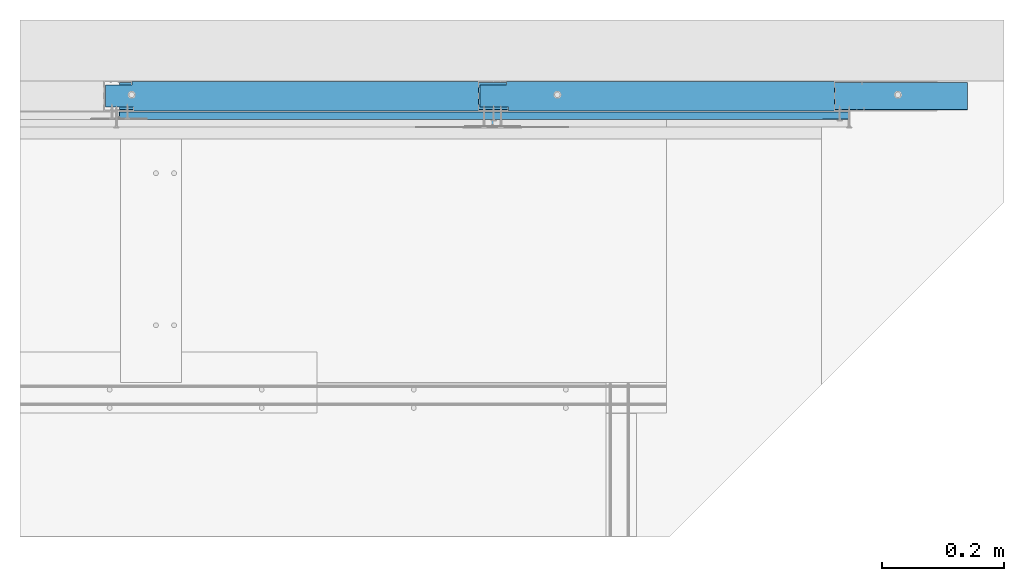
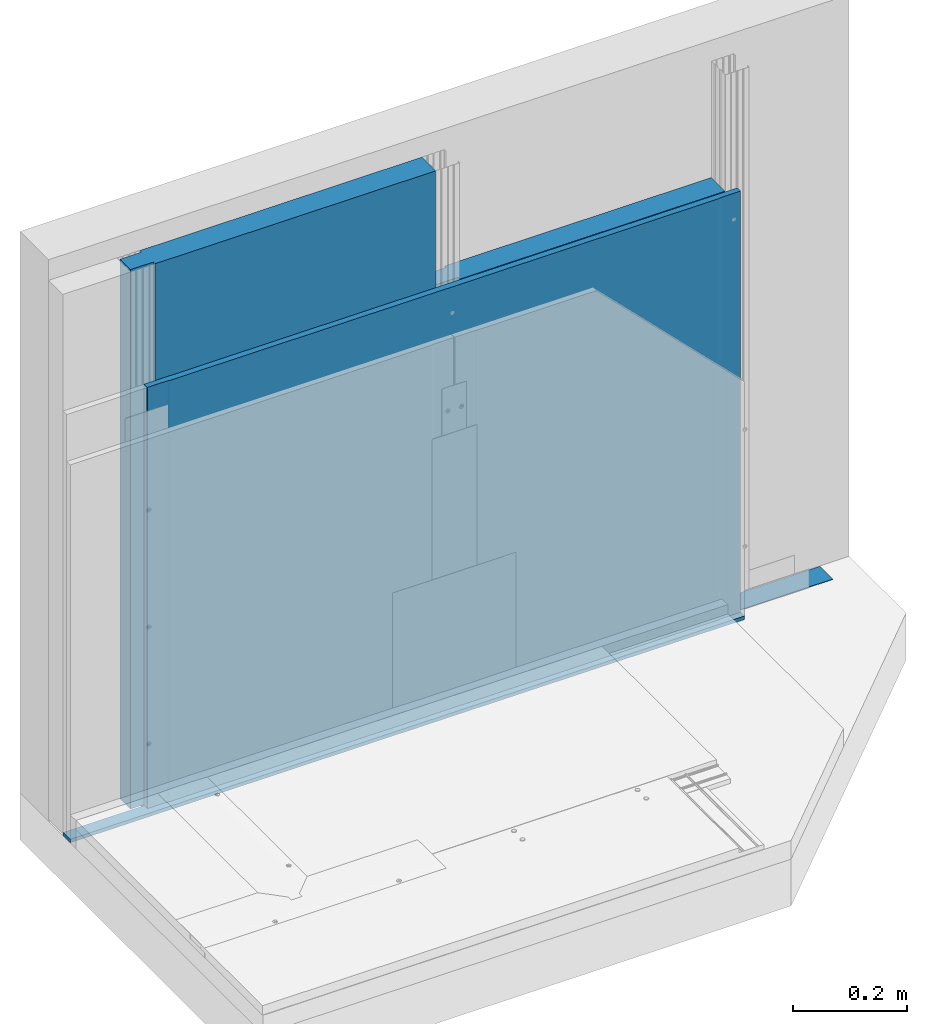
# One storey, part 14 of 38: 5 walls.
"""IFC2X3 building model written with IfcOpenShell, lengths in millimetres."""

from ifc_helpers import new_model, entity, si_unit, converted_unit, direction, frame, origin, origin_with_axes, place, context, project, spatial, faceted_brep, element, save


model = new_model("IFC2X3")

# Units and contexts
model_context = context("Model", 3, precision=1e-05, world=origin(), true_north=direction((0.0, 1.0, 0.0)))
ifc_project = project(units=[si_unit("LENGTHUNIT", "METRE", prefix="MILLI"), si_unit("AREAUNIT", "SQUARE_METRE"), si_unit("VOLUMEUNIT", "CUBIC_METRE"), converted_unit("PLANEANGLEUNIT", "DEGREE", entity("IfcPlaneAngleMeasure", 0.01745), si_unit("PLANEANGLEUNIT", "RADIAN"), dimensions=[0, 0, 0, 0, 0, 0, 0]), si_unit("SOLIDANGLEUNIT", "STERADIAN"), si_unit("MASSUNIT", "GRAM"), si_unit("TIMEUNIT", "SECOND"), si_unit("THERMODYNAMICTEMPERATUREUNIT", "DEGREE_CELSIUS"), si_unit("LUMINOUSINTENSITYUNIT", "LUMEN")], contexts=[model_context])

# Site, building, storey
site_placement = place(None, origin_with_axes())
site = spatial("IfcSite", under=ifc_project, at=site_placement, Name="Default Site", CompositionType="ELEMENT")
building_placement = place(site_placement, origin_with_axes())
building = spatial("IfcBuilding", under=site, at=building_placement, Name="Default Building", CompositionType="ELEMENT")
storey_placement = place(building_placement, origin_with_axes())
storey = spatial("IfcBuildingStorey", under=building, at=storey_placement, Name="Default Building Storey", CompositionType="ELEMENT", Elevation=0.0)

# Walls
wall_1_placement = place(storey_placement, frame((2288.4296487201, 1971.180077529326, 1159.999999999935), z_axis=(0.0, 0.0, 1.0), x_axis=(1.0, 0.0, 0.0)))
element("IfcWall", 1, at=wall_1_placement, inside=storey, Name="Płyta gipsowo-kartonowa RIGIPS PRO (4PRO™)", context=model_context, shape_type="Brep", body=[
    faceted_brep([(1199.866025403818, -10.99999999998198, -249.9999999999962), (1199.965925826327, -10.75881904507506, -249.9999999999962), (1199.965925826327, -10.75881904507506, -1150.001581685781), (1199.866025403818, -10.99999999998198, -1150.001581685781), (1199.707106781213, -11.20710678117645, -249.9999999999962), (1199.707106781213, -11.20710678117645, -1150.001581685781), (1199.50000000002, -11.36602540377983, -249.9999999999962), (1199.50000000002, -11.36602540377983, -1150.001581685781), (1199.258819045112, -11.46592582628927, -249.9999999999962), (1199.258819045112, -11.46592582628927, -1150.001581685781), (1199.0, -11.50000000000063, -249.9999999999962), (1199.0, -11.50000000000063, -1150.001581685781), (1158.999999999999, -11.50000000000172, -249.9999999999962), (1158.999999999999, -11.50000000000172, -1150.001581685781), (1155.000000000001, -12.49999999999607, -249.9999999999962), (1155.000000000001, -12.49999999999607, -1150.001581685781), (44.99999999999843, -12.50000000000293, -249.9999999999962), (44.99999999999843, -12.50000000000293, -1150.001581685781), (40.99999999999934, -11.50000000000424, -249.9999999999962), (40.99999999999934, -11.50000000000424, -1150.001581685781), (0.9999999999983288, -11.5000000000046, -249.9999999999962), (0.9999999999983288, -11.5000000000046, -1150.001581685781), (0.7411809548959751, -11.46592582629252, -249.9999999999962), (0.7411809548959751, -11.46592582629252, -1150.001581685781), (0.4999999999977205, -11.3660254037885, -249.9999999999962), (0.4999999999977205, -11.3660254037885, -1150.001581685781), (0.29289321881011, -11.20710678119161, -249.9999999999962), (0.29289321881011, -11.20710678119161, -1150.001581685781), (0.1339745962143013, -11.00000000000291, -249.9999999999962), (0.1339745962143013, -11.00000000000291, -1150.001581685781), (0.03407417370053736, -10.7588190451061, -249.9999999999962), (0.03407417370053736, -10.7588190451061, -1150.001581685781), (-2.887645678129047e-12, -10.50000000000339, -249.9999999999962), (-2.887645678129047e-12, -10.50000000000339, -1150.001581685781), (0.0, 0.0, -249.9999999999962), (0.0, 0.0, -1150.001581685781), (1200.0, 0.0, -249.9999999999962), (1200.0, 0.0, -1150.001581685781), (1200.000000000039, -10.49999999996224, -249.9999999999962), (1200.000000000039, -10.49999999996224, -1150.001581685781)], [[[0, 1, 2, 3]], [[4, 0, 3, 5]], [[6, 4, 5, 7]], [[8, 6, 7, 9]], [[10, 8, 9, 11]], [[12, 10, 11, 13]], [[14, 12, 13, 15]], [[16, 14, 15, 17]], [[18, 16, 17, 19]], [[20, 18, 19, 21]], [[22, 20, 21, 23]], [[24, 22, 23, 25]], [[26, 24, 25, 27]], [[28, 26, 27, 29]], [[30, 28, 29, 31]], [[32, 30, 31, 33]], [[34, 32, 33, 35]], [[36, 34, 35, 37]], [[38, 36, 37, 39]], [[1, 38, 39, 2]], [[2, 39, 37, 35, 33, 31, 29, 27, 25, 23, 21, 19, 17, 15, 13, 11, 9, 7, 5, 3]], [[12, 14, 16, 18, 20, 22, 24, 26, 28, 30, 32, 34, 36, 38, 1, 0, 4, 6, 8, 10]]]),
])
wall_2_placement = place(storey_placement, frame((3488.429648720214, 1946.180077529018, 2.384025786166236), z_axis=(0.0, 0.0, 1.0), x_axis=(1.0, 0.0, 0.0)))
element("IfcWall", 2, at=wall_2_placement, inside=storey, Name="Dedykowana masa szpachlowa Rigips - konstrukcyjna", context=model_context, shape_type="Brep", body=[
    faceted_brep([(0.0, 24.6461696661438, 0.0), (0.0, 0.0, 3.524958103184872e-16), (-1363.404515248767, 0.0, 3.524958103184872e-16), (-1363.404515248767, 24.6461696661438, 0.0), (0.0, 0.0, 7.614392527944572), (-1363.404515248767, 0.0, 7.614392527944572), (0.0, 24.6461696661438, 7.614392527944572), (-1363.404515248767, 24.6461696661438, 7.614392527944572)], [[[0, 1, 2, 3]], [[1, 4, 5, 2]], [[4, 6, 7, 5]], [[6, 0, 3, 7]], [[7, 3, 2, 5]], [[0, 6, 4, 1]]]),
])
wall_3_placement = place(storey_placement, frame((3042.566304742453, 5452.424146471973, 8.800611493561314), z_axis=(0.0, 0.0, 1.0), x_axis=(1.0, 0.0, 0.0)))
element("IfcWall", 3, at=wall_3_placement, inside=storey, Name="Wełna mineralna szklana lub skalna ISOVER", context=model_context, shape_type="Brep", body=[
    faceted_brep([(-161.2958819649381, -3473.633223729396, -3.060216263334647), (-161.2958819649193, -3473.633223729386, 901.1993885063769), (-114.6214102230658, -3473.633223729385, 901.1993885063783), (-114.6214102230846, -3473.633223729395, -3.060216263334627), (-114.6214102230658, -3479.633223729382, 901.1993885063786), (-114.6214102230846, -3479.633223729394, -3.060216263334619), (-161.2958819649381, -3436.833223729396, -3.060216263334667), (-161.2958819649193, -3436.833223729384, 901.1993885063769), (-117.6214102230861, -3436.833223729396, -3.060216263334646), (-117.6214102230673, -3436.833223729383, 901.199388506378), (-117.6214102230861, -3431.283223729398, -3.060216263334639), (421.4904507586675, -3431.283223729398, -3.060216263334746), (421.4904507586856, -3431.283223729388, 901.1993885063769), (-117.6214102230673, -3431.283223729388, 901.1993885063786), (421.4904507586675, -3479.633223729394, -3.060216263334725), (421.4904507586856, -3479.633223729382, 901.1993885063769)], [[[0, 1, 2, 3]], [[3, 2, 4, 5]], [[1, 0, 6, 7]], [[7, 6, 8, 9]], [[10, 11, 12, 13]], [[9, 8, 10, 13]], [[3, 5, 14, 11, 10, 8, 6, 0]], [[4, 15, 14, 5]], [[15, 4, 2, 1, 7, 9, 13, 12]], [[14, 15, 12, 11]]]),
])
wall_4_placement = place(storey_placement, frame((2412.059826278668, 5452.424146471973, 8.80061149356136), z_axis=(0.0, 0.0, 1.0), x_axis=(1.0, 0.0, 0.0)))
element("IfcWall", 4, at=wall_4_placement, inside=storey, Name="Wełna mineralna szklana lub skalna ISOVER", context=model_context, shape_type="Brep", body=[
    faceted_brep([(-146.8402890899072, -3473.633223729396, -3.060216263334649), (-146.8402890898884, -3473.633223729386, 1149.589783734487), (-100.190289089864, -3473.633223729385, 1149.589783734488), (-100.1902890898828, -3473.633223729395, -3.060216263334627), (-100.190289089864, -3479.633223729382, 1149.589783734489), (-100.1902890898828, -3479.633223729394, -3.060216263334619), (-146.8402890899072, -3436.833223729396, -3.060216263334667), (-146.8402890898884, -3436.833223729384, 1149.589783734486), (-103.1902890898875, -3436.833223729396, -3.060216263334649), (-103.1902890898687, -3436.833223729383, 1149.589783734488), (-103.1902890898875, -3431.283223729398, -3.060216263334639), (466.8850682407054, -3431.283223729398, -3.060216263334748), (466.8850682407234, -3431.283223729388, 1149.589783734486), (-103.1902890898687, -3431.283223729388, 1149.589783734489), (466.8850682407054, -3479.633223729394, -3.060216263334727), (466.8850682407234, -3479.633223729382, 1149.589783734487)], [[[0, 1, 2, 3]], [[3, 2, 4, 5]], [[1, 0, 6, 7]], [[7, 6, 8, 9]], [[10, 11, 12, 13]], [[9, 8, 10, 13]], [[3, 5, 14, 11, 10, 8, 6, 0]], [[4, 15, 14, 5]], [[15, 4, 2, 1, 7, 9, 13, 12]], [[14, 15, 12, 11]]]),
])
wall_5_placement = place(storey_placement, frame((3452.179523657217, 5452.424146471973, 8.390395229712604), z_axis=(7.620176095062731e-14, -6.858158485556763e-13, 1.0), x_axis=(1.0, -9.714451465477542e-17, -7.620176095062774e-14)))
element("IfcWall", 5, at=wall_5_placement, inside=storey, Name="Taśma uszczelniająca piankowa RIGIPS", context=model_context, shape_type="Brep", body=[
    faceted_brep([(-1163.749874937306, -3477.783223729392, -5.000000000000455), (-1163.749874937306, -3477.862841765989, -6.006369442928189), (-1163.749874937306, -3432.691889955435, -5.864971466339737), (-1163.749874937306, -3432.783223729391, -5.000000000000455), (230.8610945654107, -3477.862841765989, -6.006369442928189), (230.8610945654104, -3477.783223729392, -5.000000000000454), (230.8610945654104, -3432.783223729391, -5.000000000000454), (230.8610945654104, -3432.691889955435, -5.864971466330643)], [[[0, 1, 2, 3]], [[4, 5, 6, 7]], [[5, 0, 3, 6]], [[6, 3, 2, 7]], [[7, 2, 1, 4]], [[4, 1, 0, 5]]]),
])

save(model, "model.ifc")
